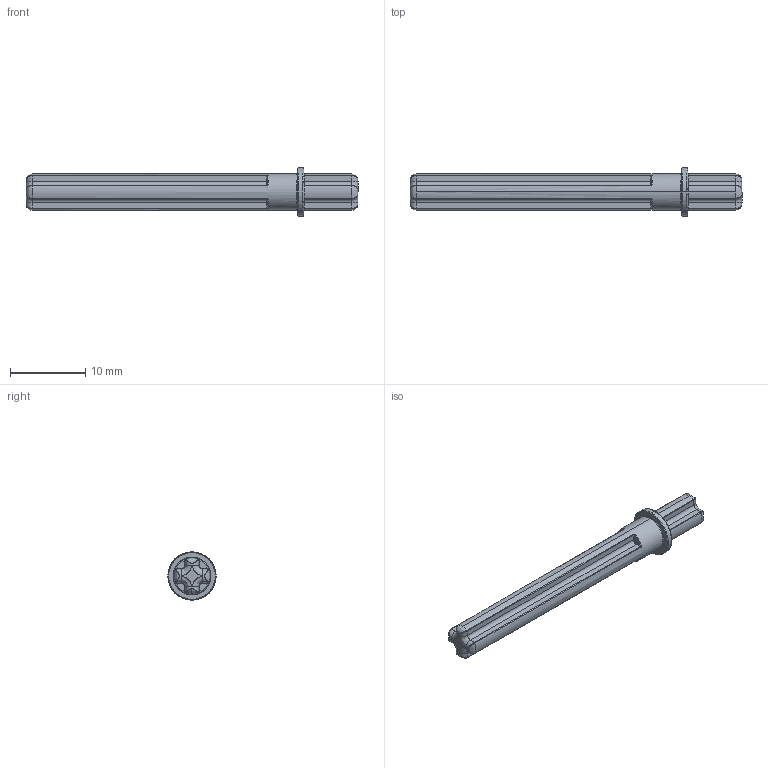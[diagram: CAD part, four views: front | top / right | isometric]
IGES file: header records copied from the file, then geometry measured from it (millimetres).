
Start section: SolidWorks IGES file using analytic representation for surfaces
Global section: file name: C:\Users\PC\Desktop\Lego Technik Gear and Axles\Axles\STEP, IGES, STL\32209 Black Technic Axle 5.5 with Stop.IGS; native system: SolidWorks 2014; preprocessor: SolidWorks 2014; author: PC; date: 150218.234004; units: millimetre
Bounding box: 44 x 6.4 x 6.4 mm (x, y, z)
Surface area: 790.4 mm2 (no closed solid volume)
Topology: 0 solids, 0 shells, 162 faces, 1071 edges, 1055 vertices
Faces by surface type: bspline 97, revolution 65
